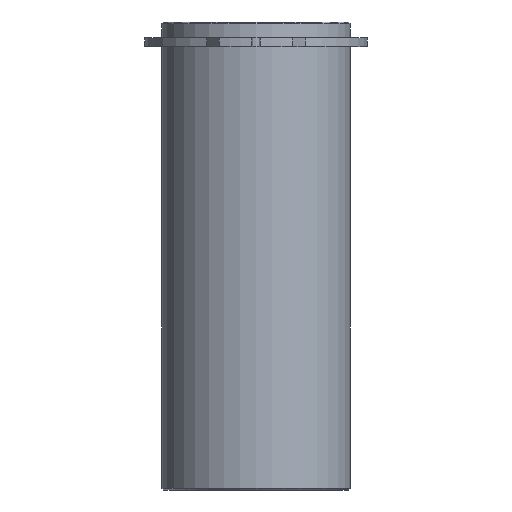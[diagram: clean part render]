
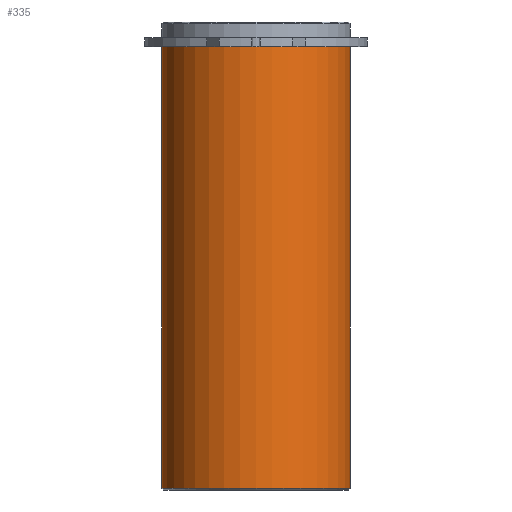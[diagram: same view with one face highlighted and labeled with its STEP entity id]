
A CAD part, front view. The second image highlights one B-rep face of the part: STEP entity #335.
In plain terms, the highlighted cylindrical face has radius 16.125 mm (diameter 32.25 mm), a partial arc.
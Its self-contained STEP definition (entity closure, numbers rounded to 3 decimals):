
#294=CARTESIAN_POINT('',(0.0,0.,-37.75));
#295=DIRECTION('',(0.0,0.,1.0));
#296=DIRECTION('',(1.0,0.0,0.0));
#297=AXIS2_PLACEMENT_3D('',#294,#295,#296);
#298=CYLINDRICAL_SURFACE('',#297,16.125);
#299=CARTESIAN_POINT('',(16.125,0.0,0.0));
#300=VERTEX_POINT('',#299);
#301=CARTESIAN_POINT('',(16.125,0.,-75.5));
#302=VERTEX_POINT('',#301);
#303=CARTESIAN_POINT('',(16.125,0.0,0.0));
#304=DIRECTION('',(0.0,0.0,-1.0));
#305=VECTOR('',#304,75.5);
#306=LINE('',#303,#305);
#307=EDGE_CURVE('',#300,#302,#306,.T.);
#308=ORIENTED_EDGE('',*,*,#307,.F.);
#309=CARTESIAN_POINT('',(-16.125,0.,0.0));
#310=VERTEX_POINT('',#309);
#311=CARTESIAN_POINT('',(0.0,0.0,0.0));
#312=DIRECTION('',(0.0,0.0,1.0));
#313=DIRECTION('',(1.0,0.0,0.0));
#314=AXIS2_PLACEMENT_3D('',#311,#312,#313);
#315=CIRCLE('',#314,16.125);
#316=EDGE_CURVE('',#310,#300,#315,.T.);
#317=ORIENTED_EDGE('',*,*,#316,.F.);
#318=CARTESIAN_POINT('',(-16.125,0.,-75.5));
#319=VERTEX_POINT('',#318);
#320=CARTESIAN_POINT('',(-16.125,0.,0.0));
#321=DIRECTION('',(0.0,0.0,-1.0));
#322=VECTOR('',#321,75.5);
#323=LINE('',#320,#322);
#324=EDGE_CURVE('',#310,#319,#323,.T.);
#325=ORIENTED_EDGE('',*,*,#324,.T.);
#326=CARTESIAN_POINT('',(0.0,0.,-75.5));
#327=DIRECTION('',(0.0,0.0,1.0));
#328=DIRECTION('',(1.0,0.0,0.0));
#329=AXIS2_PLACEMENT_3D('',#326,#327,#328);
#330=CIRCLE('',#329,16.125);
#331=EDGE_CURVE('',#319,#302,#330,.T.);
#332=ORIENTED_EDGE('',*,*,#331,.T.);
#333=EDGE_LOOP('',(#308,#317,#325,#332));
#334=FACE_OUTER_BOUND('',#333,.T.);
#335=ADVANCED_FACE('',(#334),#298,.T.);
